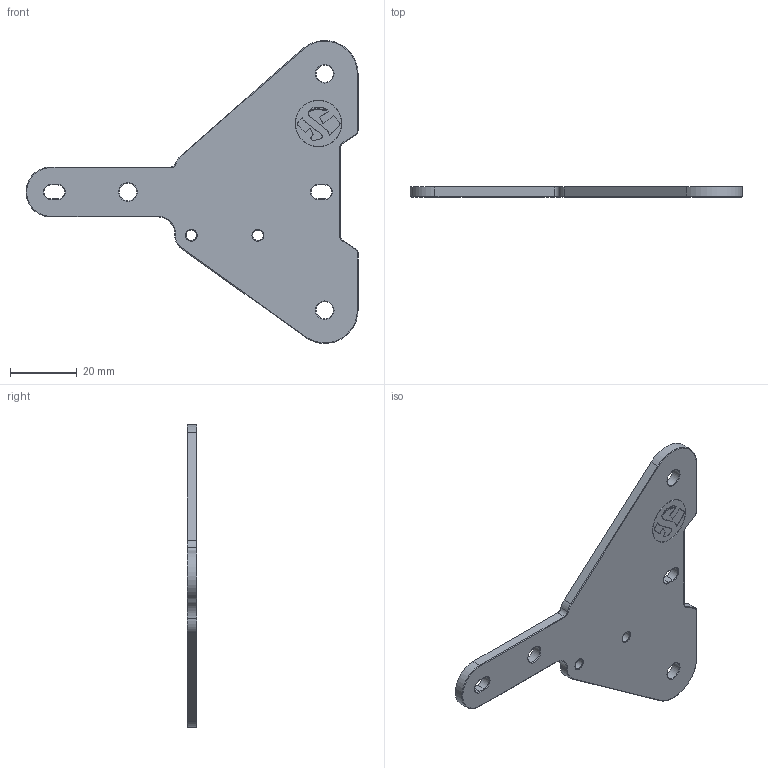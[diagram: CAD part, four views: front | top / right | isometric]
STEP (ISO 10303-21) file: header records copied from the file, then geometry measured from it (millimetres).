
FILE_DESCRIPTION(/* description */ (''),/* implementation_level */ '2;1');
FILE_NAME(/* name */ 'LXZ mount v1.step',/* time_stamp */ '2023-07-15T11:36:52+02:00',/* author */ (''),/* organization */ (''),/* preprocessor_version */ 'ST-DEVELOPER v19.2',/* originating_system */ 'Autodesk Translation Framework v12.6.0.85',/* authorisation */ '');
FILE_SCHEMA (('AUTOMOTIVE_DESIGN { 1 0 10303 214 3 1 1 }'));
Length unit declared in the file: millimetre
Products named in the file (1): Dxz mount
Bounding box: 99.7 x 3 x 90.96 mm (x, y, z)
Volume: 11830 mm3; surface area: 9184 mm2
Topology: 1 solids, 1 shells, 204 faces, 556 edges, 362 vertices
Faces by surface type: bspline 88, plane 61, cylinder 35, torus 20
Full cylindrical faces by diameter (mm): 3.2 x2, 5.2 x3, 13.884 x1, 13.984 x1
Entity records: 7963 total; most frequent: CARTESIAN_POINT 3451, ORIENTED_EDGE 1112, DIRECTION 690, EDGE_CURVE 556, VERTEX_POINT 362, LINE 252, VECTOR 252, EDGE_LOOP 226
